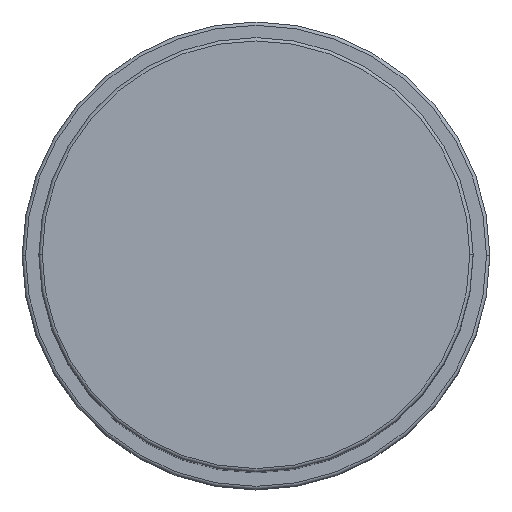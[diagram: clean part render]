
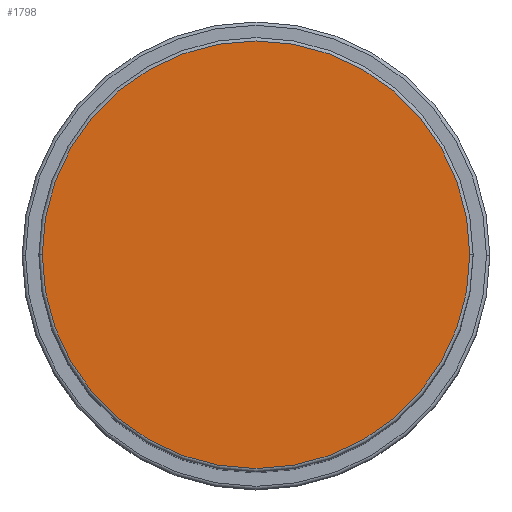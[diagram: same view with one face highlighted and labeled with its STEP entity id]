
A CAD part, top view. The second image highlights one B-rep face of the part: STEP entity #1798.
In plain terms, the highlighted planar face has unit normal (0, 0, 1).
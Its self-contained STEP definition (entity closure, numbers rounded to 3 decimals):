
#47 = CARTESIAN_POINT ( 'NONE',  ( -32., 0., 122. ) ) ;
#117 = CARTESIAN_POINT ( 'NONE',  ( 0., 0., 122. ) ) ;
#130 = DIRECTION ( 'NONE',  ( 1., 0., 0. ) ) ;
#283 = DIRECTION ( 'NONE',  ( 0., 0., 1. ) ) ;
#314 = ORIENTED_EDGE ( 'NONE', *, *, #1252, .T. ) ;
#422 = AXIS2_PLACEMENT_3D ( 'NONE', #505, #970, #1142 ) ;
#505 = CARTESIAN_POINT ( 'NONE',  ( 0., 0., 122. ) ) ;
#684 = AXIS2_PLACEMENT_3D ( 'NONE', #117, #283, #130 ) ;
#761 = EDGE_LOOP ( 'NONE', ( #1439, #314 ) ) ;
#954 = CIRCLE ( 'NONE', #422, 32. ) ;
#960 = DIRECTION ( 'NONE',  ( 1., 0., 0. ) ) ;
#970 = DIRECTION ( 'NONE',  ( 0., 0., 1. ) ) ;
#1142 = DIRECTION ( 'NONE',  ( 1., 0., 0. ) ) ;
#1228 = EDGE_CURVE ( 'NONE', #1380, #1562, #1782, .T. ) ;
#1252 = EDGE_CURVE ( 'NONE', #1562, #1380, #954, .T. ) ;
#1299 = AXIS2_PLACEMENT_3D ( 'NONE', #2038, #2053, #960 ) ;
#1380 = VERTEX_POINT ( 'NONE', #1965 ) ;
#1410 = PLANE ( 'NONE',  #684 ) ;
#1439 = ORIENTED_EDGE ( 'NONE', *, *, #1228, .T. ) ;
#1562 = VERTEX_POINT ( 'NONE', #47 ) ;
#1782 = CIRCLE ( 'NONE', #1299, 32. ) ;
#1798 = ADVANCED_FACE ( 'NONE', ( #1857 ), #1410, .T. ) ;
#1857 = FACE_OUTER_BOUND ( 'NONE', #761, .T. ) ;
#1965 = CARTESIAN_POINT ( 'NONE',  ( 32., 0., 122. ) ) ;
#2038 = CARTESIAN_POINT ( 'NONE',  ( 0., 0., 122. ) ) ;
#2053 = DIRECTION ( 'NONE',  ( 0., 0., 1. ) ) ;
